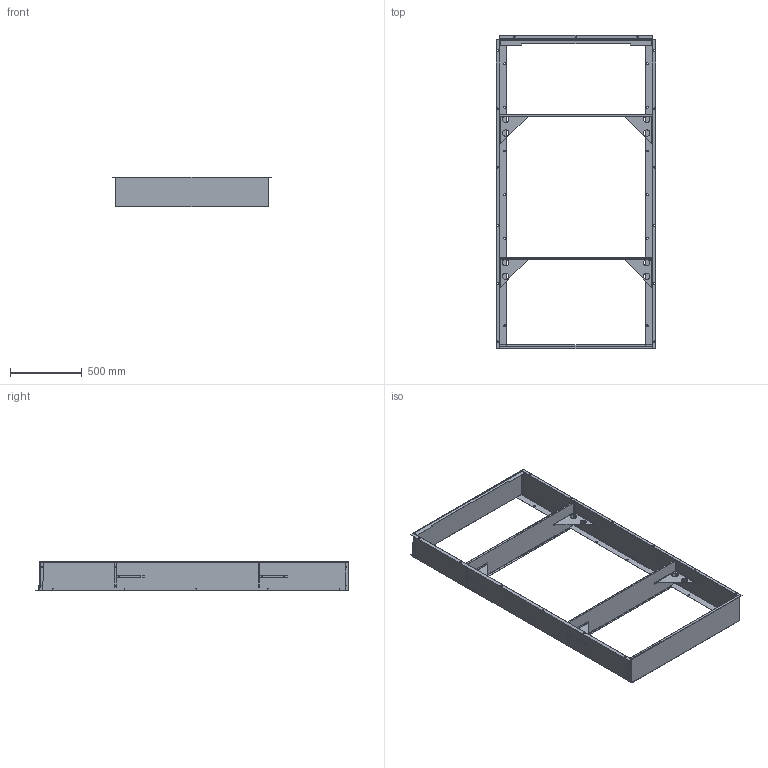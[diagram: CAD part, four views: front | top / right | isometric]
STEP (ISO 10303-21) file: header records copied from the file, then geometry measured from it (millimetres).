
FILE_DESCRIPTION (( 'STEP AP214' ), '1' );
FILE_NAME ('WWC5-X.STEP', '2016-07-15T19:14:43', ( 'BMC' ), ( 'Bard Manufacturing Co., Inc.' ), 'SwSTEP 2.0', 'SolidWorks 2016', '' );
FILE_SCHEMA (( 'AUTOMOTIVE_DESIGN' ));
Length unit declared in the file: inch
Products named in the file (12): 501-387; 100-387; 5021-0926; WWC5-X; 501-388; 100-388; 140-275; 126-307; 521-345; 120-345; 507-223; 106-223
Assembly tree (15 placements, depth 3):
  WWC5-X
    126-307
    140-275  x4
    521-345  x2
      120-345
    507-223
      106-223
      5021-0926
    501-388
      100-388
    501-387
      100-387
Bounding box: 1115.33 x 2190.3 x 208.66 mm (x, y, z)
Volume: 3622776.7 mm3; surface area: 5130018 mm2
Topology: 11 solids, 11 shells, 568 faces, 1414 edges, 868 vertices
Faces by surface type: plane 290, cylinder 278
Entity records: 13054 total; most frequent: DIRECTION 2235, CARTESIAN_POINT 2022, ORIENTED_EDGE 1986, EDGE_CURVE 993, AXIS2_PLACEMENT_3D 827, VERTEX_POINT 614, VECTOR 581, LINE 581
